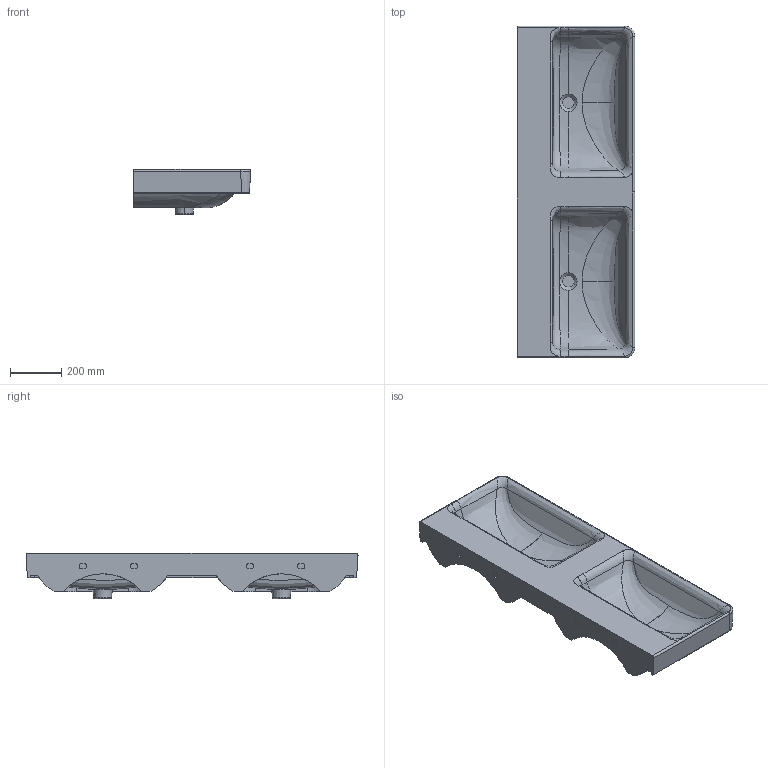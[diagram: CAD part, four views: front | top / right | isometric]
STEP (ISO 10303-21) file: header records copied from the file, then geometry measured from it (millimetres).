
FILE_DESCRIPTION(('CATIA V5 STEP'),'2;1');
FILE_NAME('G:\Laufen Similor\TPM-K\TPE\JStöckli\BIM\Laufen pro\14968\HY14968BIM.stp','2017-01-25T15:16:46+00:00',('none'),('none'),'CATIA Version 5 Release 19 SP 9 (IN-10)','CATIA V5 STEP AP203','none');
FILE_SCHEMA(('CONFIG_CONTROL_DESIGN'));
Products named in the file (1): HY14968BIM
Bounding box: 460.25 x 1300.76 x 177 mm (x, y, z)
Volume: 29179677.9 mm3; surface area: 2050275.3 mm2
Topology: 1 solids, 1 shells, 152 faces, 425 edges, 287 vertices
Faces by surface type: bspline 66, plane 45, cylinder 21, cone 8, extrusion 8, torus 4
Entity records: 42471 total; most frequent: CARTESIAN_POINT 39266, ORIENTED_EDGE 826, EDGE_CURVE 413, DIRECTION 320, VERTEX_POINT 269, B_SPLINE_CURVE_WITH_KNOTS 231, EDGE_LOOP 158, VECTOR 155
